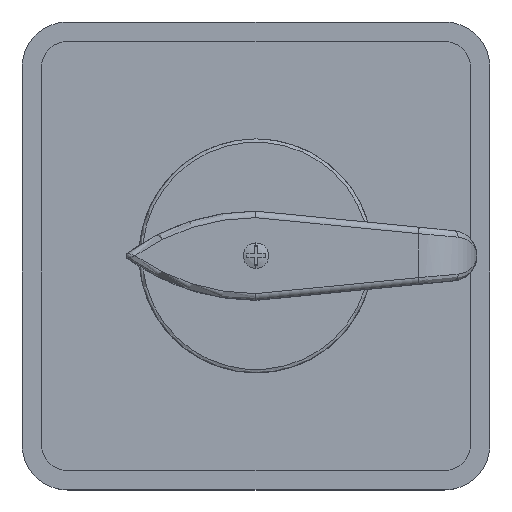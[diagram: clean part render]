
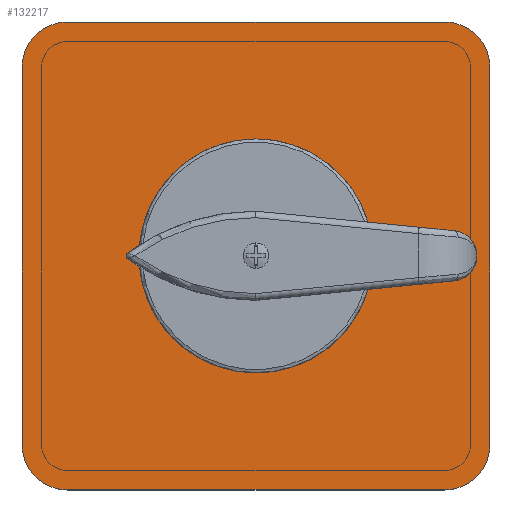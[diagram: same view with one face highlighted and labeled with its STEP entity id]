
A CAD part, top view. The second image highlights one B-rep face of the part: STEP entity #132217.
In plain terms, the highlighted planar face has unit normal (0, 0, 1).
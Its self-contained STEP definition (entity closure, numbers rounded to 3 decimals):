
#32211=CARTESIAN_POINT('',(29.,29.,3.35));
#32212=DIRECTION('',(0.,0.,1.));
#32213=DIRECTION('',(1.,0.,0.));
#32214=AXIS2_PLACEMENT_3D('',#32211,#32212,#32213);
#32216=DIRECTION('',(0.,1.,0.));
#32217=VECTOR('',#32216,58.);
#32218=CARTESIAN_POINT('',(36.,-29.,3.35));
#32219=LINE('',#32218,#32217);
#32220=CARTESIAN_POINT('',(29.,-29.,3.35));
#32221=DIRECTION('',(0.,0.,1.));
#32222=DIRECTION('',(0.,-1.,0.));
#32223=AXIS2_PLACEMENT_3D('',#32220,#32221,#32222);
#32225=DIRECTION('',(1.,0.,0.));
#32226=VECTOR('',#32225,58.);
#32227=CARTESIAN_POINT('',(-29.,-36.,3.35));
#32228=LINE('',#32227,#32226);
#32229=CARTESIAN_POINT('',(-29.,-29.,3.35));
#32230=DIRECTION('',(0.,0.,1.));
#32231=DIRECTION('',(-1.,0.,0.));
#32232=AXIS2_PLACEMENT_3D('',#32229,#32230,#32231);
#32234=DIRECTION('',(0.,-1.,0.));
#32235=VECTOR('',#32234,58.);
#32236=CARTESIAN_POINT('',(-36.,29.,3.35));
#32237=LINE('',#32236,#32235);
#32238=CARTESIAN_POINT('',(-29.,29.,3.35));
#32239=DIRECTION('',(0.,0.,1.));
#32240=DIRECTION('',(0.,1.,0.));
#32241=AXIS2_PLACEMENT_3D('',#32238,#32239,#32240);
#32243=DIRECTION('',(-1.,0.,0.));
#32244=VECTOR('',#32243,58.);
#32245=CARTESIAN_POINT('',(29.,36.,3.35));
#32246=LINE('',#32245,#32244);
#32247=DIRECTION('',(1.,0.,0.));
#32248=VECTOR('',#32247,8.);
#32249=CARTESIAN_POINT('',(-4.,4.,3.35));
#32250=LINE('',#32249,#32248);
#32259=DIRECTION('',(0.,-1.,0.));
#32260=VECTOR('',#32259,8.);
#32261=CARTESIAN_POINT('',(4.,4.,3.35));
#32262=LINE('',#32261,#32260);
#32271=DIRECTION('',(-1.,0.,0.));
#32272=VECTOR('',#32271,8.);
#32273=CARTESIAN_POINT('',(4.,-4.,3.35));
#32274=LINE('',#32273,#32272);
#32283=DIRECTION('',(0.,1.,0.));
#32284=VECTOR('',#32283,8.);
#32285=CARTESIAN_POINT('',(-4.,-4.,3.35));
#32286=LINE('',#32285,#32284);
#33134=CARTESIAN_POINT('',(0.,0.,3.35));
#33135=DIRECTION('',(0.,0.,1.));
#33136=DIRECTION('',(-0.947,0.322,0.));
#33137=AXIS2_PLACEMENT_3D('',#33134,#33135,#33136);
#33144=DIRECTION('',(-1.,0.,0.));
#33145=VECTOR('',#33144,1.727);
#33146=CARTESIAN_POINT('',(-8.52,-2.9,3.35));
#33147=LINE('',#33146,#33145);
#33169=CARTESIAN_POINT('',(0.,0.,3.35));
#33170=DIRECTION('',(0.,0.,1.));
#33171=DIRECTION('',(-0.962,0.272,0.));
#33172=AXIS2_PLACEMENT_3D('',#33169,#33170,#33171);
#33179=DIRECTION('',(1.,0.,0.));
#33180=VECTOR('',#33179,1.727);
#33181=CARTESIAN_POINT('',(-10.247,2.9,3.35));
#33182=LINE('',#33181,#33180);
#33204=CARTESIAN_POINT('',(0.,0.,3.35));
#33205=DIRECTION('',(0.,0.,1.));
#33206=DIRECTION('',(0.322,0.947,0.));
#33207=AXIS2_PLACEMENT_3D('',#33204,#33205,#33206);
#33214=DIRECTION('',(0.,1.,0.));
#33215=VECTOR('',#33214,1.727);
#33216=CARTESIAN_POINT('',(-2.9,8.52,3.35));
#33217=LINE('',#33216,#33215);
#33239=CARTESIAN_POINT('',(0.,0.,3.35));
#33240=DIRECTION('',(0.,0.,1.));
#33241=DIRECTION('',(0.272,0.962,0.));
#33242=AXIS2_PLACEMENT_3D('',#33239,#33240,#33241);
#33249=DIRECTION('',(0.,-1.,0.));
#33250=VECTOR('',#33249,1.727);
#33251=CARTESIAN_POINT('',(2.9,10.247,3.35));
#33252=LINE('',#33251,#33250);
#33274=CARTESIAN_POINT('',(0.,0.,3.35));
#33275=DIRECTION('',(0.,0.,1.));
#33276=DIRECTION('',(0.947,-0.322,0.));
#33277=AXIS2_PLACEMENT_3D('',#33274,#33275,#33276);
#33288=DIRECTION('',(1.,0.,0.));
#33289=VECTOR('',#33288,1.727);
#33290=CARTESIAN_POINT('',(8.52,2.9,3.35));
#33291=LINE('',#33290,#33289);
#33309=CARTESIAN_POINT('',(0.,0.,3.35));
#33310=DIRECTION('',(0.,0.,1.));
#33311=DIRECTION('',(0.962,-0.272,0.));
#33312=AXIS2_PLACEMENT_3D('',#33309,#33310,#33311);
#33319=DIRECTION('',(-1.,0.,0.));
#33320=VECTOR('',#33319,1.727);
#33321=CARTESIAN_POINT('',(10.247,-2.9,3.35));
#33322=LINE('',#33321,#33320);
#33344=CARTESIAN_POINT('',(0.,0.,3.35));
#33345=DIRECTION('',(0.,0.,1.));
#33346=DIRECTION('',(-0.322,-0.947,0.));
#33347=AXIS2_PLACEMENT_3D('',#33344,#33345,#33346);
#33354=DIRECTION('',(0.,-1.,0.));
#33355=VECTOR('',#33354,1.727);
#33356=CARTESIAN_POINT('',(2.9,-8.52,3.35));
#33357=LINE('',#33356,#33355);
#33379=CARTESIAN_POINT('',(0.,0.,3.35));
#33380=DIRECTION('',(0.,0.,1.));
#33381=DIRECTION('',(-0.272,-0.962,0.));
#33382=AXIS2_PLACEMENT_3D('',#33379,#33380,#33381);
#33389=DIRECTION('',(0.,1.,0.));
#33390=VECTOR('',#33389,1.727);
#33391=CARTESIAN_POINT('',(-2.9,-10.247,3.35));
#33392=LINE('',#33391,#33390);
#72387=CARTESIAN_POINT('',(36.,29.,3.35));
#72388=VERTEX_POINT('',#72387);
#72389=CARTESIAN_POINT('',(29.,36.,3.35));
#72390=VERTEX_POINT('',#72389);
#72395=CARTESIAN_POINT('',(29.,-36.,3.35));
#72396=VERTEX_POINT('',#72395);
#72397=CARTESIAN_POINT('',(36.,-29.,3.35));
#72398=VERTEX_POINT('',#72397);
#72403=CARTESIAN_POINT('',(-36.,-29.,3.35));
#72404=VERTEX_POINT('',#72403);
#72405=CARTESIAN_POINT('',(-29.,-36.,3.35));
#72406=VERTEX_POINT('',#72405);
#72411=CARTESIAN_POINT('',(-29.,36.,3.35));
#72412=VERTEX_POINT('',#72411);
#72413=CARTESIAN_POINT('',(-36.,29.,3.35));
#72414=VERTEX_POINT('',#72413);
#91783=CARTESIAN_POINT('',(-2.9,-8.52,3.35));
#91784=CARTESIAN_POINT('',(2.9,-8.52,3.35));
#91785=VERTEX_POINT('',#91783);
#91786=VERTEX_POINT('',#91784);
#91787=CARTESIAN_POINT('',(8.52,-2.9,3.35));
#91788=CARTESIAN_POINT('',(8.52,2.9,3.35));
#91789=VERTEX_POINT('',#91787);
#91790=VERTEX_POINT('',#91788);
#91791=CARTESIAN_POINT('',(2.9,8.52,3.35));
#91792=CARTESIAN_POINT('',(-2.9,8.52,3.35));
#91793=VERTEX_POINT('',#91791);
#91794=VERTEX_POINT('',#91792);
#91795=CARTESIAN_POINT('',(-8.52,2.9,3.35));
#91796=CARTESIAN_POINT('',(-8.52,-2.9,3.35));
#91797=VERTEX_POINT('',#91795);
#91798=VERTEX_POINT('',#91796);
#91815=CARTESIAN_POINT('',(10.247,-2.9,3.35));
#91816=VERTEX_POINT('',#91815);
#91819=CARTESIAN_POINT('',(10.247,2.9,3.35));
#91820=VERTEX_POINT('',#91819);
#91823=CARTESIAN_POINT('',(2.9,10.247,3.35));
#91824=VERTEX_POINT('',#91823);
#91827=CARTESIAN_POINT('',(-2.9,10.247,3.35));
#91828=VERTEX_POINT('',#91827);
#91831=CARTESIAN_POINT('',(-10.247,2.9,3.35));
#91832=VERTEX_POINT('',#91831);
#91835=CARTESIAN_POINT('',(-10.247,-2.9,3.35));
#91836=VERTEX_POINT('',#91835);
#91839=CARTESIAN_POINT('',(-2.9,-10.247,3.35));
#91840=VERTEX_POINT('',#91839);
#91843=CARTESIAN_POINT('',(2.9,-10.247,3.35));
#91844=VERTEX_POINT('',#91843);
#91847=CARTESIAN_POINT('',(-4.,4.,3.35));
#91848=CARTESIAN_POINT('',(4.,4.,3.35));
#91849=VERTEX_POINT('',#91847);
#91850=VERTEX_POINT('',#91848);
#91855=CARTESIAN_POINT('',(4.,-4.,3.35));
#91856=VERTEX_POINT('',#91855);
#91859=CARTESIAN_POINT('',(-4.,-4.,3.35));
#91860=VERTEX_POINT('',#91859);
#132152=CARTESIAN_POINT('',(0.,0.,3.35));
#132153=DIRECTION('',(0.,0.,1.));
#132154=DIRECTION('',(1.,0.,0.));
#132155=AXIS2_PLACEMENT_3D('',#132152,#132153,#132154);
#132156=PLANE('',#132155);
#132157=ORIENTED_EDGE('',*,*,#132048,.F.);
#132158=ORIENTED_EDGE('',*,*,#132064,.F.);
#132159=ORIENTED_EDGE('',*,*,#132077,.F.);
#132160=ORIENTED_EDGE('',*,*,#132092,.F.);
#132161=ORIENTED_EDGE('',*,*,#132105,.F.);
#132162=ORIENTED_EDGE('',*,*,#132120,.F.);
#132163=ORIENTED_EDGE('',*,*,#132133,.F.);
#132164=ORIENTED_EDGE('',*,*,#132145,.F.);
#132165=EDGE_LOOP('',(#132157,#132158,#132159,#132160,#132161,#132162,#132163,
#132164));
#132166=FACE_OUTER_BOUND('',#132165,.F.);
#132168=ORIENTED_EDGE('',*,*,#132167,.F.);
#132170=ORIENTED_EDGE('',*,*,#132169,.F.);
#132172=ORIENTED_EDGE('',*,*,#132171,.F.);
#132174=ORIENTED_EDGE('',*,*,#132173,.F.);
#132175=EDGE_LOOP('',(#132168,#132170,#132172,#132174));
#132176=FACE_BOUND('',#132175,.F.);
#132178=ORIENTED_EDGE('',*,*,#132177,.F.);
#132180=ORIENTED_EDGE('',*,*,#132179,.F.);
#132182=ORIENTED_EDGE('',*,*,#132181,.T.);
#132184=ORIENTED_EDGE('',*,*,#132183,.F.);
#132185=EDGE_LOOP('',(#132178,#132180,#132182,#132184));
#132186=FACE_BOUND('',#132185,.F.);
#132188=ORIENTED_EDGE('',*,*,#132187,.F.);
#132190=ORIENTED_EDGE('',*,*,#132189,.F.);
#132192=ORIENTED_EDGE('',*,*,#132191,.T.);
#132194=ORIENTED_EDGE('',*,*,#132193,.F.);
#132195=EDGE_LOOP('',(#132188,#132190,#132192,#132194));
#132196=FACE_BOUND('',#132195,.F.);
#132198=ORIENTED_EDGE('',*,*,#132197,.F.);
#132200=ORIENTED_EDGE('',*,*,#132199,.F.);
#132202=ORIENTED_EDGE('',*,*,#132201,.T.);
#132204=ORIENTED_EDGE('',*,*,#132203,.F.);
#132205=EDGE_LOOP('',(#132198,#132200,#132202,#132204));
#132206=FACE_BOUND('',#132205,.F.);
#132208=ORIENTED_EDGE('',*,*,#132207,.F.);
#132210=ORIENTED_EDGE('',*,*,#132209,.F.);
#132212=ORIENTED_EDGE('',*,*,#132211,.T.);
#132214=ORIENTED_EDGE('',*,*,#132213,.F.);
#132215=EDGE_LOOP('',(#132208,#132210,#132212,#132214));
#132216=FACE_BOUND('',#132215,.F.);
#132217=ADVANCED_FACE('',(#132166,#132176,#132186,#132196,#132206,#132216),
#132156,.T.);
#32215=CIRCLE('',#32214,7.);
#32224=CIRCLE('',#32223,7.);
#32233=CIRCLE('',#32232,7.);
#32242=CIRCLE('',#32241,7.);
#33138=CIRCLE('',#33137,9.);
#33173=CIRCLE('',#33172,10.65);
#33208=CIRCLE('',#33207,9.);
#33243=CIRCLE('',#33242,10.65);
#33278=CIRCLE('',#33277,9.);
#33313=CIRCLE('',#33312,10.65);
#33348=CIRCLE('',#33347,9.);
#33383=CIRCLE('',#33382,10.65);
#132048=EDGE_CURVE('',#72388,#72390,#32215,.T.);
#132064=EDGE_CURVE('',#72398,#72388,#32219,.T.);
#132077=EDGE_CURVE('',#72396,#72398,#32224,.T.);
#132092=EDGE_CURVE('',#72406,#72396,#32228,.T.);
#132105=EDGE_CURVE('',#72404,#72406,#32233,.T.);
#132120=EDGE_CURVE('',#72414,#72404,#32237,.T.);
#132133=EDGE_CURVE('',#72412,#72414,#32242,.T.);
#132145=EDGE_CURVE('',#72390,#72412,#32246,.T.);
#132167=EDGE_CURVE('',#91849,#91850,#32250,.T.);
#132169=EDGE_CURVE('',#91860,#91849,#32286,.T.);
#132171=EDGE_CURVE('',#91856,#91860,#32274,.T.);
#132173=EDGE_CURVE('',#91850,#91856,#32262,.T.);
#132177=EDGE_CURVE('',#91797,#91798,#33138,.T.);
#132179=EDGE_CURVE('',#91832,#91797,#33182,.T.);
#132181=EDGE_CURVE('',#91832,#91836,#33173,.T.);
#132183=EDGE_CURVE('',#91798,#91836,#33147,.T.);
#132187=EDGE_CURVE('',#91793,#91794,#33208,.T.);
#132189=EDGE_CURVE('',#91824,#91793,#33252,.T.);
#132191=EDGE_CURVE('',#91824,#91828,#33243,.T.);
#132193=EDGE_CURVE('',#91794,#91828,#33217,.T.);
#132197=EDGE_CURVE('',#91789,#91790,#33278,.T.);
#132199=EDGE_CURVE('',#91816,#91789,#33322,.T.);
#132201=EDGE_CURVE('',#91816,#91820,#33313,.T.);
#132203=EDGE_CURVE('',#91790,#91820,#33291,.T.);
#132207=EDGE_CURVE('',#91785,#91786,#33348,.T.);
#132209=EDGE_CURVE('',#91840,#91785,#33392,.T.);
#132211=EDGE_CURVE('',#91840,#91844,#33383,.T.);
#132213=EDGE_CURVE('',#91786,#91844,#33357,.T.);
